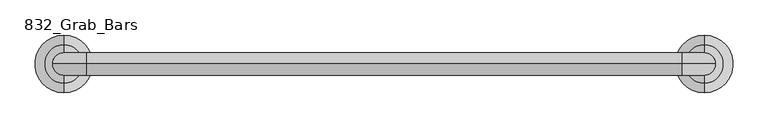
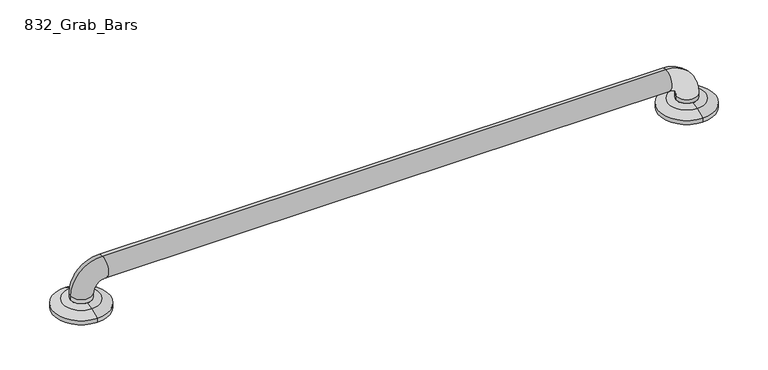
"""IFC4 building model written with IfcOpenShell, lengths in millimetres: proxy geometry, 832_Grab_Bars : 8320-001360."""

from ifc_helpers import new_model, si_unit, point, frame, origin, place, context, project, spatial, polyline, circle_curve, ellipse_curve, trimmed, source, transform, mapped, element, save
from ifc_brep_helpers import plane_surface, cylinder_surface, revolved_surface, advanced_brep


def proxy_832_grab_bars_3fec91fc(model_context):
    return source(origin(), model_context, "Body", "AdvancedBrep", [
        advanced_brep(
        [(-363.5375, 564.1630987, 13.1934507), (-363.5375, 577.85, 6.35), (-363.5375, 495.3, 6.35), (-363.5375, 508.9869013, 13.1934507), (-363.5375, 520.3461266, 15.875), (-363.5375, 552.8038734, 15.875), (-363.5375, 520.7, 15.875), (-379.4125, 536.575, 15.875), (-363.5375, 552.45, 15.875), (-347.6625, 536.575, 15.875), (-363.5375, 577.85, 0.0), (-363.5375, 552.45, 0.0), (-363.5375, 536.575, 0.0), (-363.5375, 520.7, 0.0), (-363.5375, 495.3, 0.0), (550.8625, 564.2276895, 13.1934507), (550.8625, 577.9145908, 6.35), (550.8625, 495.3645908, 6.35), (550.8625, 509.0514921, 13.1934507), (550.8625, 520.4107174, 15.875), (550.8625, 552.8684641, 15.875), (550.8625, 520.7, 15.875), (534.9875, 536.575, 15.875), (550.8625, 552.45, 15.875), (566.7375, 536.575, 15.875), (550.8625, 577.9145908, 0.0), (550.8625, 552.45, 0.0), (550.8625, 536.6395908, 0.0), (550.8625, 520.7, 0.0), (550.8625, 495.3645908, 0.0), (-379.4125, 536.575, 22.225), (-347.6625, 536.575, 22.225), (-331.7875, 536.575, 38.1), (-331.7875, 536.575, 69.85), (519.1125, 536.575, 38.1), (519.1125, 536.575, 69.85), (534.9875, 536.575, 22.225), (566.7375, 536.575, 22.225)],
        [
            (0, 1),
            (1, 2, circle_curve(frame((-363.5375, 536.575, 6.35), z_axis=(0.0, 0.0, 1.0), x_axis=(0.0, -1.0, 0.0)), 41.275)),
            (2, 3),
            (3, 0, circle_curve(frame((-363.5375, 536.575, 13.1934507), z_axis=(0.0, 0.0, -1.0), x_axis=(0.0, -1.0, 0.0)), 27.5880987)),
            (2, 1, circle_curve(frame((-363.5375, 536.575, 6.35), z_axis=(0.0, 0.0, 1.0), x_axis=(0.0, -1.0, 0.0)), 41.275)),
            (0, 3, circle_curve(frame((-363.5375, 536.575, 13.1934507), z_axis=(0.0, 0.0, -1.0), x_axis=(0.0, -1.0, 0.0)), 27.5880987)),
            (3, 4, circle_curve(frame((-363.5375, 520.3461266, -9.525), z_axis=(-1.0, 0.0, 0.0), x_axis=(0.0, 0.0, -1.0)), 25.4)),
            (4, 5, circle_curve(frame((-363.5375, 536.575, 15.875), z_axis=(0.0, 0.0, -1.0), x_axis=(0.0, -1.0, 0.0)), 16.2288734)),
            (5, 0, circle_curve(frame((-363.5375, 552.8038734, -9.525), z_axis=(-1.0, 0.0, 0.0), x_axis=(0.0, 0.0, -1.0)), 25.4)),
            (5, 4, circle_curve(frame((-363.5375, 536.575, 15.875), z_axis=(0.0, 0.0, -1.0), x_axis=(0.0, -1.0, 0.0)), 16.2288734)),
            (4, 6),
            (6, 7, circle_curve(frame((-363.5375, 536.575, 15.875), z_axis=(0.0, 0.0, -1.0), x_axis=(1.0, 0.0, 0.0)), 15.875)),
            (7, 8, circle_curve(frame((-363.5375, 536.575, 15.875), z_axis=(0.0, 0.0, -1.0), x_axis=(1.0, 0.0, 0.0)), 15.875)),
            (8, 5),
            (8, 9, circle_curve(frame((-363.5375, 536.575, 15.875), z_axis=(0.0, 0.0, -1.0), x_axis=(1.0, 0.0, 0.0)), 15.875)),
            (9, 6, circle_curve(frame((-363.5375, 536.575, 15.875), z_axis=(0.0, 0.0, -1.0), x_axis=(1.0, 0.0, 0.0)), 15.875)),
            (10, 11),
            (11, 12),
            (12, 13),
            (13, 14),
            (14, 10, circle_curve(frame((-363.5375, 536.575, 0.0), z_axis=(0.0, 0.0, -1.0), x_axis=(0.0, -1.0, 0.0)), 41.275)),
            (10, 14, circle_curve(frame((-363.5375, 536.575, 0.0), z_axis=(0.0, 0.0, -1.0), x_axis=(0.0, -1.0, 0.0)), 41.275)),
            (1, 10),
            (14, 2),
            (15, 16),
            (16, 17, circle_curve(frame((550.8625, 536.6395908, 6.35), z_axis=(0.0, 0.0, 1.0), x_axis=(0.0, -1.0, 0.0)), 41.275)),
            (17, 18),
            (18, 15, circle_curve(frame((550.8625, 536.6395908, 13.1934507), z_axis=(0.0, 0.0, -1.0), x_axis=(0.0, -1.0, 0.0)), 27.5880987)),
            (17, 16, circle_curve(frame((550.8625, 536.6395908, 6.35), z_axis=(0.0, 0.0, 1.0), x_axis=(0.0, -1.0, 0.0)), 41.275)),
            (15, 18, circle_curve(frame((550.8625, 536.6395908, 13.1934507), z_axis=(0.0, 0.0, -1.0), x_axis=(0.0, -1.0, 0.0)), 27.5880987)),
            (18, 19, circle_curve(frame((550.8625, 520.4107174, -9.525), z_axis=(-1.0, 0.0, 0.0), x_axis=(0.0, 0.0, -1.0)), 25.4)),
            (19, 20, circle_curve(frame((550.8625, 536.6395908, 15.875), z_axis=(0.0, 0.0, -1.0), x_axis=(0.0, -1.0, 0.0)), 16.2288734)),
            (20, 15, circle_curve(frame((550.8625, 552.8684641, -9.525), z_axis=(-1.0, 0.0, 0.0), x_axis=(0.0, 0.0, -1.0)), 25.4)),
            (20, 19, circle_curve(frame((550.8625, 536.6395908, 15.875), z_axis=(0.0, 0.0, -1.0), x_axis=(0.0, -1.0, 0.0)), 16.2288734)),
            (19, 21),
            (21, 22, circle_curve(frame((550.8625, 536.575, 15.875), z_axis=(0.0, 0.0, -1.0), x_axis=(-1.0, 0.0, 0.0)), 15.875)),
            (22, 23, circle_curve(frame((550.8625, 536.575, 15.875), z_axis=(0.0, 0.0, -1.0), x_axis=(-1.0, 0.0, 0.0)), 15.875)),
            (23, 20),
            (23, 24, circle_curve(frame((550.8625, 536.575, 15.875), z_axis=(0.0, 0.0, -1.0), x_axis=(-1.0, 0.0, 0.0)), 15.875)),
            (24, 21, circle_curve(frame((550.8625, 536.575, 15.875), z_axis=(0.0, 0.0, -1.0), x_axis=(-1.0, 0.0, 0.0)), 15.875)),
            (25, 26),
            (26, 27),
            (27, 28),
            (28, 29),
            (29, 25, circle_curve(frame((550.8625, 536.6395908, 0.0), z_axis=(0.0, 0.0, -1.0), x_axis=(0.0, -1.0, 0.0)), 41.275)),
            (25, 29, circle_curve(frame((550.8625, 536.6395908, 0.0), z_axis=(0.0, 0.0, -1.0), x_axis=(0.0, -1.0, 0.0)), 41.275)),
            (16, 25),
            (29, 17),
            (30, 7),
            (9, 31),
            (31, 30, circle_curve(frame((-363.5375, 536.575, 22.225), z_axis=(0.0, 0.0, -1.0), x_axis=(1.0, 0.0, 0.0)), 15.875)),
            (30, 31, circle_curve(frame((-363.5375, 536.575, 22.225), z_axis=(0.0, 0.0, -1.0), x_axis=(1.0, 0.0, 0.0)), 15.875)),
            (31, 32, circle_curve(frame((-331.7875, 536.575, 22.225), z_axis=(0.0, 1.0, 0.0), x_axis=(-1.0, 0.0, 0.0)), 15.875)),
            (32, 33, circle_curve(frame((-331.7875, 536.575, 53.975), z_axis=(-1.0, 0.0, 0.0), x_axis=(0.0, 0.0, -1.0)), 15.875)),
            (33, 30, circle_curve(frame((-331.7875, 536.575, 22.225), z_axis=(0.0, -1.0, 0.0), x_axis=(-1.0, 0.0, 0.0)), 47.625)),
            (33, 32, circle_curve(frame((-331.7875, 536.575, 53.975), z_axis=(-1.0, 0.0, 0.0), x_axis=(0.0, 0.0, -1.0)), 15.875)),
            (32, 34),
            (34, 35, circle_curve(frame((519.1125, 536.575, 53.975), z_axis=(-1.0, 0.0, 0.0), x_axis=(0.0, 0.0, -1.0)), 15.875)),
            (35, 33),
            (35, 34, circle_curve(frame((519.1125, 536.575, 53.975), z_axis=(-1.0, 0.0, 0.0), x_axis=(0.0, 0.0, -1.0)), 15.875)),
            (34, 36, circle_curve(frame((519.1125, 536.575, 22.225), z_axis=(0.0, 1.0, 0.0), x_axis=(0.0, 0.0, 1.0)), 15.875)),
            (36, 37, circle_curve(frame((550.8625, 536.575, 22.225), z_axis=(0.0, 0.0, 1.0), x_axis=(-1.0, 0.0, 0.0)), 15.875)),
            (37, 35, circle_curve(frame((519.1125, 536.575, 22.225), z_axis=(0.0, -1.0, 0.0), x_axis=(0.0, 0.0, 1.0)), 47.625)),
            (37, 36, circle_curve(frame((550.8625, 536.575, 22.225), z_axis=(0.0, 0.0, 1.0), x_axis=(-1.0, 0.0, 0.0)), 15.875)),
            (36, 22),
            (24, 37),
        ],
        [
            revolved_surface(polyline([(-363.5375, 495.3, 6.35), (-363.5375, 508.9869013, 13.1934507)]), (-363.5375, 536.575, 31.75), (0.0, 0.0, 1.0)),
            revolved_surface(trimmed(ellipse_curve(frame((-363.5375, 520.3461266, -9.525), z_axis=(-1.0, 0.0, 0.0), x_axis=(0.0, 0.0, -1.0)), 25.4, 25.4), [point((-363.5375, 508.9869013, 13.1934507))], [point((-363.5375, 520.3461266, 15.875))], True, "CARTESIAN"), (-363.5375, 536.575, 31.75), (0.0, 0.0, 1.0)),
            plane_surface(frame((-363.5375, 536.575, 15.875), z_axis=(0.0, 0.0, 1.0), x_axis=(0.0, -1.0, 0.0))),
            plane_surface(frame((-363.5375, 536.575, 0.0), z_axis=(0.0, 0.0, -1.0), x_axis=(0.0, -1.0, 0.0))),
            cylinder_surface(frame((-363.5375, 536.575, 31.75), z_axis=(0.0, 0.0, 1.0), x_axis=(0.0, -1.0, 0.0)), 41.275),
            revolved_surface(polyline([(550.8625, 495.3645908, 6.35), (550.8625, 509.0514921, 13.1934507)]), (550.8625, 536.6395908, 31.75), (0.0, 0.0, 1.0)),
            revolved_surface(trimmed(ellipse_curve(frame((550.8625, 520.4107174, -9.525), z_axis=(-1.0, 0.0, 0.0), x_axis=(0.0, 0.0, -1.0)), 25.4, 25.4), [point((550.8625, 509.0514921, 13.1934507))], [point((550.8625, 520.4107174, 15.875))], True, "CARTESIAN"), (550.8625, 536.6395908, 31.75), (0.0, 0.0, 1.0)),
            plane_surface(frame((550.8625, 536.6395908, 15.875), z_axis=(0.0, 0.0, 1.0), x_axis=(0.0, -1.0, 0.0))),
            plane_surface(frame((550.8625, 536.6395908, 0.0), z_axis=(0.0, 0.0, -1.0), x_axis=(0.0, -1.0, 0.0))),
            cylinder_surface(frame((550.8625, 536.6395908, 31.75), z_axis=(0.0, 0.0, 1.0), x_axis=(0.0, -1.0, 0.0)), 41.275),
            cylinder_surface(frame((-363.5375, 536.575, 0.0), z_axis=(0.0, 0.0, -1.0), x_axis=(1.0, 0.0, 0.0)), 15.875),
            revolved_surface(trimmed(ellipse_curve(frame((-363.5375, 536.575, 22.225), z_axis=(0.0, 0.0, 1.0), x_axis=(1.0, 0.0, 0.0)), 15.875, 15.875), [point((-379.4125, 536.575, 22.225))], [point((-347.6625, 536.575, 22.225))], True, "CARTESIAN"), (-331.7875, 536.575, 22.225), (0.0, -1.0, 0.0)),
            revolved_surface(trimmed(ellipse_curve(frame((-363.5375, 536.575, 22.225), z_axis=(0.0, 0.0, 1.0), x_axis=(1.0, 0.0, 0.0)), 15.875, 15.875), [point((-347.6625, 536.575, 22.225))], [point((-379.4125, 536.575, 22.225))], True, "CARTESIAN"), (-331.7875, 536.575, 22.225), (0.0, -1.0, 0.0)),
            cylinder_surface(frame((-331.7875, 536.575, 53.975), z_axis=(-1.0, 0.0, 0.0), x_axis=(0.0, 0.0, -1.0)), 15.875),
            revolved_surface(trimmed(ellipse_curve(frame((519.1125, 536.575, 53.975), z_axis=(1.0, 0.0, 0.0), x_axis=(0.0, 0.0, -1.0)), 15.875, 15.875), [point((519.1125, 536.575, 69.85))], [point((519.1125, 536.575, 38.1))], True, "CARTESIAN"), (519.1125, 536.575, 22.225), (0.0, -1.0, 0.0)),
            revolved_surface(trimmed(ellipse_curve(frame((519.1125, 536.575, 53.975), z_axis=(1.0, 0.0, 0.0), x_axis=(0.0, 0.0, -1.0)), 15.875, 15.875), [point((519.1125, 536.575, 38.1))], [point((519.1125, 536.575, 69.85))], True, "CARTESIAN"), (519.1125, 536.575, 22.225), (0.0, -1.0, 0.0)),
            cylinder_surface(frame((550.8625, 536.575, 22.225), z_axis=(0.0, 0.0, 1.0), x_axis=(-1.0, 0.0, 0.0)), 15.875),
        ],
        [
            (0, [[1, 2, 3, 4]]),
            (0, [[5, -1, 6, -3]]),
            (1, [[7, 8, 9, -4]]),
            (1, [[-9, 10, -7, -6]]),
            (2, [[11, 12, 13, 14, -8]]),
            (2, [[-14, 15, 16, -11, -10]]),
            (3, [[17, 18, 19, 20, 21]]),
            (3, [[-20, -19, -18, -17, 22]]),
            (4, [[23, -21, 24, -2]]),
            (4, [[-24, -22, -23, -5]]),
            (5, [[25, 26, 27, 28]]),
            (5, [[29, -25, 30, -27]]),
            (6, [[31, 32, 33, -28]]),
            (6, [[-33, 34, -31, -30]]),
            (7, [[35, 36, 37, 38, -32]]),
            (7, [[-38, 39, 40, -35, -34]]),
            (8, [[41, 42, 43, 44, 45]]),
            (8, [[-44, -43, -42, -41, 46]]),
            (9, [[47, -45, 48, -26]]),
            (9, [[-48, -46, -47, -29]]),
            (10, [[49, -12, -16, 50, 51]]),
            (10, [[-50, -15, -13, -49, 52]]),
            (11, [[53, 54, 55, -51]]),
            (12, [[-55, 56, -53, -52]]),
            (13, [[57, 58, 59, -54]]),
            (13, [[-59, 60, -57, -56]]),
            (14, [[61, 62, 63, -58]]),
            (15, [[-63, 64, -61, -60]]),
            (16, [[65, -36, -40, 66, -62]]),
            (16, [[-66, -39, -37, -65, -64]]),
        ],
    ),
    ])


if __name__ == "__main__":
    model = new_model("IFC4")
    model_context = context("Model", 3, world=origin())
    ifc_project = project(units=[si_unit("LENGTHUNIT", "METRE", prefix="MILLI")], contexts=[model_context])
    site = spatial("IfcSite", under=ifc_project)
    building = spatial("IfcBuilding", under=site)
    placement = place(None, origin())
    proxy_832_grab_bars_shape = proxy_832_grab_bars_3fec91fc(model_context)
    element("IfcBuildingElementProxy", 1, Name="832_Grab_Bars : 8320-001360", ObjectType="832_Grab_Bars : 8320-001360", at=placement, inside=building, context=model_context, shape_type="MappedRepresentation", body=[
        mapped(proxy_832_grab_bars_shape, transform((0.0, 0.0, 0.0), x_axis=(1.0, 0.0, 0.0), y_axis=(0.0, 1.0, 0.0), z_axis=(0.0, 0.0, 1.0))),
    ])
    save(model, "model.ifc")
